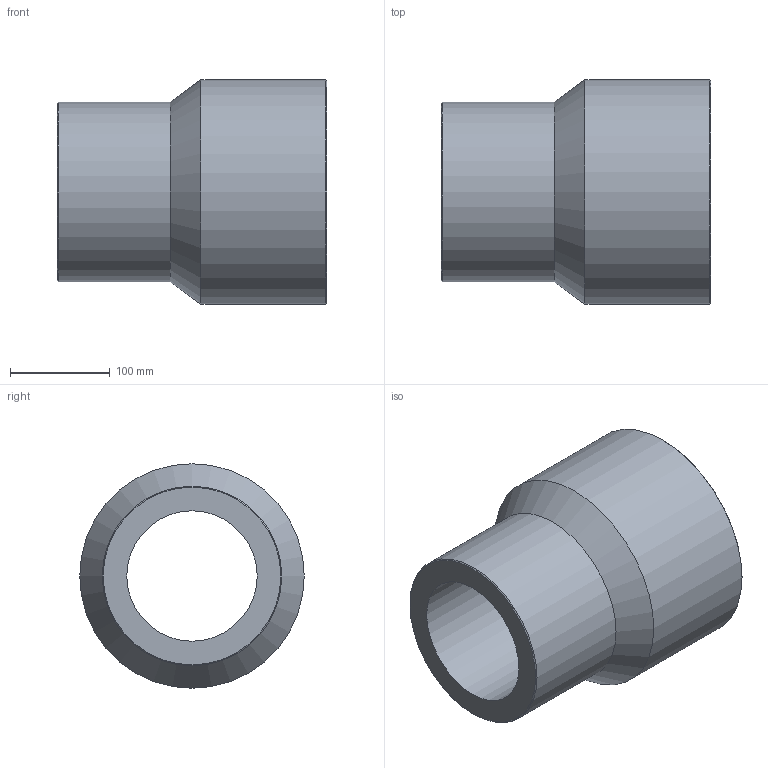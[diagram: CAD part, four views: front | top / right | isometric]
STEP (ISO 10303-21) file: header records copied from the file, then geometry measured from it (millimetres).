
FILE_DESCRIPTION(/* description */ ('Unknown'),/* implementation_level */ '2;1');
FILE_NAME(/* name */ 'RP225180H',/* time_stamp */ '2021-09-16T15:12:53+02:00',/* author */ ('Unknown'),/* organization */ ('Unknown'),/* preprocessor_version */ 'ST-DEVELOPER v16.7',/* originating_system */ 'Solid Edge',/* authorisation */ 'Unknown');
FILE_SCHEMA (('AUTOMOTIVE_DESIGN {1 0 10303 214 3 1 1}'));
Length unit declared in the file: millimetre
Products named in the file (1): RP225180H
Bounding box: 270 x 225 x 225 mm (x, y, z)
Volume: 4277158 mm3; surface area: 333462.7 mm2
Topology: 1 solids, 1 shells, 10 faces, 19 edges, 11 vertices
Faces by surface type: cylinder 4, cone 4, plane 2
Full cylindrical faces by diameter (mm): 130.8 x1, 163.4 x1, 180 x1, 225 x1
Entity records: 238 total; most frequent: DIRECTION 42, CARTESIAN_POINT 31, AXIS2_PLACEMENT_3D 21, ORIENTED_EDGE 20, EDGE_LOOP 20, FACE_BOUND 20, EDGE_CURVE 10, VERTEX_POINT 10
